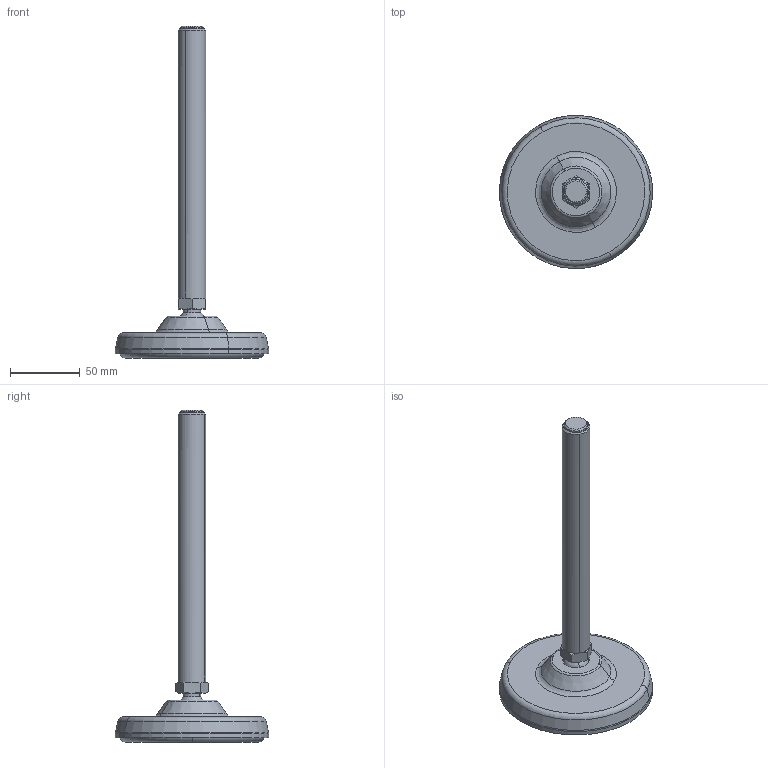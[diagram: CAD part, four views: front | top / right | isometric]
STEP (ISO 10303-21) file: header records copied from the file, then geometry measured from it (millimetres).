
FILE_DESCRIPTION(('CATIA V5 STEP Exchange'),'2;1');
FILE_NAME('X:\CODICI MOVEX\3D per clienti\3D definitivi\Part 900\P94453ZH_01.stp','2016-08-23T07:15:01+00:00',('none'),('none'),'Version 5-6 Release 2012','CATIA V5 STEP AP203','none');
FILE_SCHEMA(('CONFIG_CONTROL_DESIGN'));
Length unit declared in the file: millimetre
Products named in the file (1): P94453ZH_01
Assembly tree (3 placements, depth 2):
  P94453ZH_01
    #58
    #26935
    #41501
Bounding box: 109.97 x 109.97 x 238 mm (x, y, z)
Volume: 234338.8 mm3; surface area: 66260.7 mm2
Topology: 3 solids, 22 shells, 1240 faces, 3456 edges, 2274 vertices
Faces by surface type: plane 944, bspline 96, torus 76, cylinder 72, cone 36, sphere 16
Entity records: 42642 total; most frequent: CARTESIAN_POINT 13464, ORIENTED_EDGE 6904, DIRECTION 4549, EDGE_CURVE 3452, VERTEX_POINT 2274, VECTOR 2234, LINE 2234, AXIS2_PLACEMENT_3D 1347
